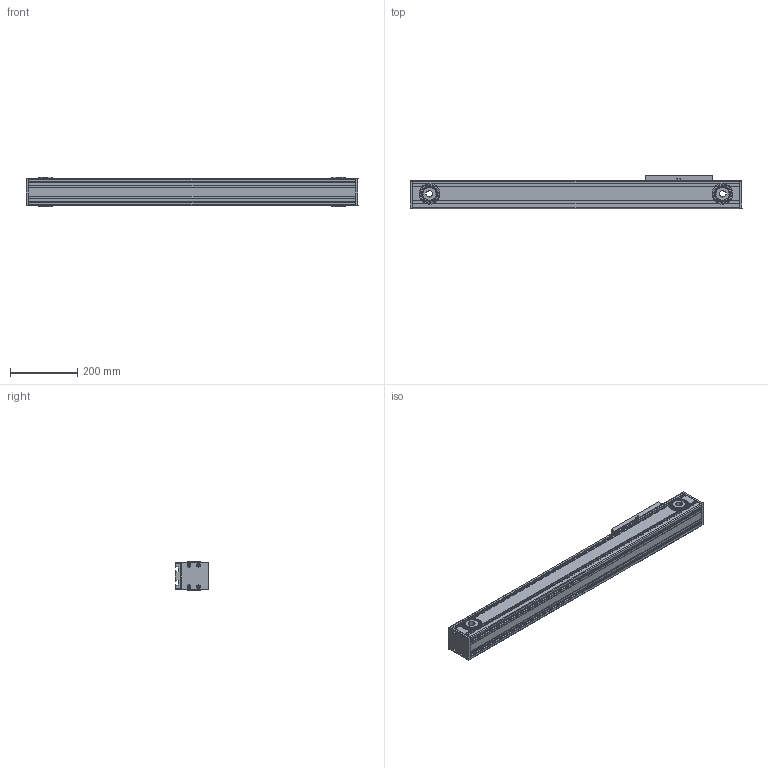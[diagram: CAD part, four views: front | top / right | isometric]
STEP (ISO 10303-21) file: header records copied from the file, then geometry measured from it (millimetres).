
FILE_DESCRIPTION (( 'STEP AP214' ), '1' );
FILE_NAME ('TKR80-600A1-F0-R3-高速内滚轮直线模组.step', '2025-10-10T03:26:09', ( '' ), ( '' ), 'SwSTEP 2.0', 'SolidWorks 2024', '' );
FILE_SCHEMA (( 'AUTOMOTIVE_DESIGN' ));
Length unit declared in the file: millimetre
Products named in the file (3): TKR80-R3-02; TKR80-600-R3-01; TKR80-600A1-F0-R3-高速内滚轮直线模组
Assembly tree (2 placements, depth 2):
  TKR80-600A1-F0-R3-高速内滚轮直线模组
    TKR80-600-R3-01
    TKR80-R3-02
Bounding box: 986 x 100 x 87 mm (x, y, z)
Volume: 3020029.2 mm3; surface area: 1199531.9 mm2
Topology: 1 solids, 52 shells, 2499 faces, 6775 edges, 4338 vertices
Faces by surface type: cylinder 1279, plane 770, torus 244, cone 182, sphere 24
Entity records: 120687 total; most frequent: CARTESIAN_POINT 31465, ORIENTED_EDGE 13382, DIRECTION 13179, EDGE_CURVE 6731, AXIS2_PLACEMENT_3D 5137, VERTEX_POINT 4338, LINE 2905, VECTOR 2905
